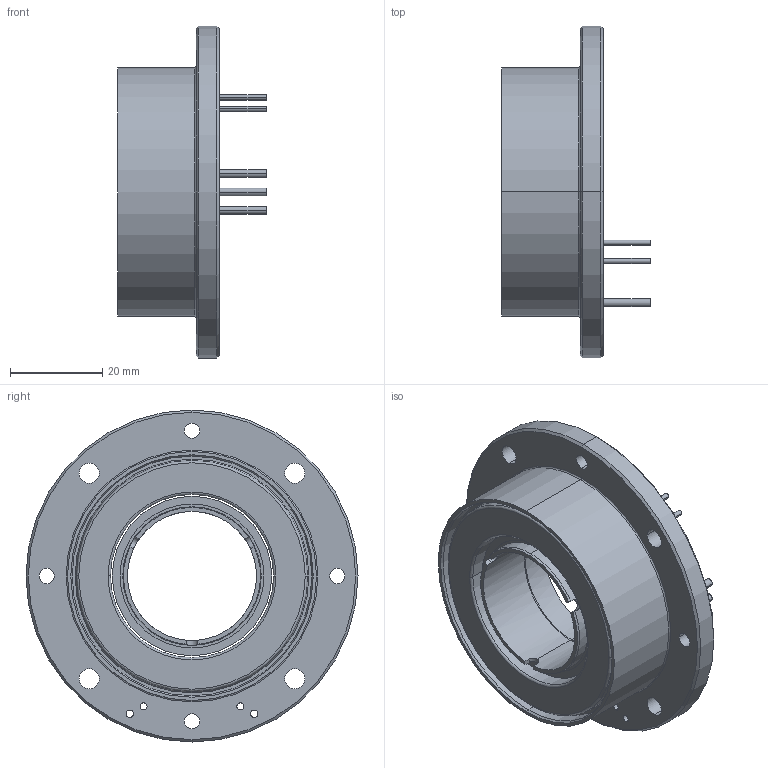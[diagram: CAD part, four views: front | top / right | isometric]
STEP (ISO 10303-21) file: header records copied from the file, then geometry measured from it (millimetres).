
FILE_DESCRIPTION((''),'2;1');
FILE_NAME('8335060_SW0001','2022-06-23T15:30:43',('mmagvisi'),(''),'CREO PARAMETRIC BY PTC INC, 2020342','CREO PARAMETRIC BY PTC INC, 2020342','');
FILE_SCHEMA(('CONFIG_CONTROL_DESIGN','SHAPE_APPEARANCE_LAYERS_GROUPS'));
Length unit declared in the file: millimetre
Products named in the file (1): 8335060_SW0001
Bounding box: 32.2 x 72 x 72 mm (x, y, z)
Volume: 38498.5 mm3; surface area: 18016.8 mm2
Topology: 2 solids, 2 shells, 124 faces, 303 edges, 194 vertices
Faces by surface type: cylinder 69, plane 30, cone 17, torus 8
Entity records: 4974 total; most frequent: CARTESIAN_POINT 874, DIRECTION 682, ORIENTED_EDGE 606, PRESENTATION_STYLE_ASSIGNMENT 305, STYLED_ITEM 305, CURVE_STYLE 303, EDGE_CURVE 303, AXIS2_PLACEMENT_3D 283
